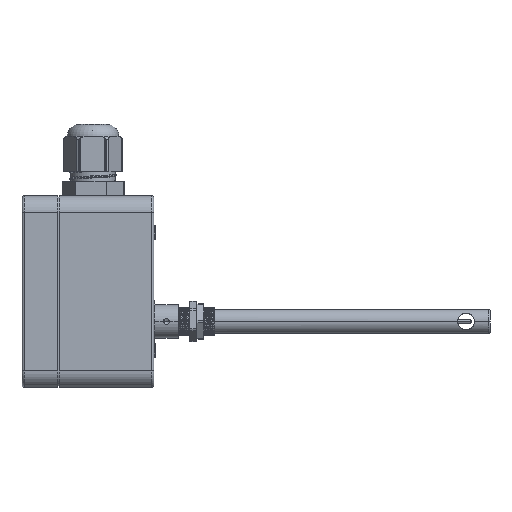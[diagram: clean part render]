
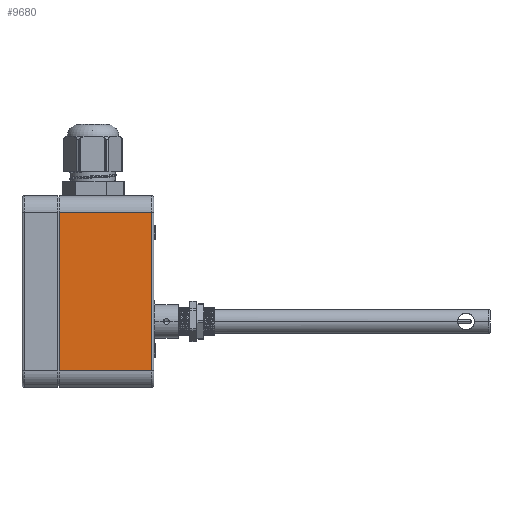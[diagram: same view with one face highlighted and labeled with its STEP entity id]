
A CAD part, left-side view. The second image highlights one B-rep face of the part: STEP entity #9680.
In plain terms, the highlighted planar face has unit normal (-1, 0, 0).
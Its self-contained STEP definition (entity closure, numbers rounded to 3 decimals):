
#101 = LINE ( 'NONE', #25675, #8970 ) ;
#603 = ORIENTED_EDGE ( 'NONE', *, *, #10212, .T. ) ;
#1168 = VERTEX_POINT ( 'NONE', #14395 ) ;
#1512 = CARTESIAN_POINT ( 'NONE',  ( -42.5, -40., -40. ) ) ;
#1620 = EDGE_LOOP ( 'NONE', ( #4440, #603, #23106, #13987 ) ) ;
#2509 = CARTESIAN_POINT ( 'NONE',  ( -42.5, -39., -40. ) ) ;
#2892 = LINE ( 'NONE', #22020, #26446 ) ;
#4440 = ORIENTED_EDGE ( 'NONE', *, *, #8292, .T. ) ;
#5016 = LINE ( 'NONE', #2509, #20562 ) ;
#5070 = EDGE_CURVE ( 'NONE', #13021, #26379, #20465, .T. ) ;
#6503 = DIRECTION ( 'NONE',  ( 0., -1., 0. ) ) ;
#7605 = CARTESIAN_POINT ( 'NONE',  ( -42.5, -0.6, -33. ) ) ;
#8292 = EDGE_CURVE ( 'NONE', #13021, #1168, #101, .T. ) ;
#8515 = CARTESIAN_POINT ( 'NONE',  ( -42.5, -0.6, 33. ) ) ;
#8970 = VECTOR ( 'NONE', #6503, 1000. ) ;
#9680 = ADVANCED_FACE ( 'NONE', ( #27376 ), #20493, .T. ) ;
#10041 = EDGE_CURVE ( 'NONE', #11730, #26379, #2892, .T. ) ;
#10212 = EDGE_CURVE ( 'NONE', #1168, #11730, #5016, .T. ) ;
#11730 = VERTEX_POINT ( 'NONE', #16600 ) ;
#12036 = VECTOR ( 'NONE', #22566, 1000. ) ;
#13021 = VERTEX_POINT ( 'NONE', #16803 ) ;
#13987 = ORIENTED_EDGE ( 'NONE', *, *, #5070, .F. ) ;
#14395 = CARTESIAN_POINT ( 'NONE',  ( -42.5, -39., -33. ) ) ;
#16557 = AXIS2_PLACEMENT_3D ( 'NONE', #1512, #20898, #18389 ) ;
#16600 = CARTESIAN_POINT ( 'NONE',  ( -42.5, -39., 33. ) ) ;
#16803 = CARTESIAN_POINT ( 'NONE',  ( -42.5, -0.6, -33. ) ) ;
#18389 = DIRECTION ( 'NONE',  ( 0., 1., 0. ) ) ;
#19923 = DIRECTION ( 'NONE',  ( 0., 1., 0. ) ) ;
#20465 = LINE ( 'NONE', #7605, #12036 ) ;
#20493 = PLANE ( 'NONE',  #16557 ) ;
#20562 = VECTOR ( 'NONE', #24016, 1000. ) ;
#20898 = DIRECTION ( 'NONE',  ( -1., 0., 0. ) ) ;
#22020 = CARTESIAN_POINT ( 'NONE',  ( -42.5, -40., 33. ) ) ;
#22566 = DIRECTION ( 'NONE',  ( 0., 0., 1. ) ) ;
#23106 = ORIENTED_EDGE ( 'NONE', *, *, #10041, .T. ) ;
#24016 = DIRECTION ( 'NONE',  ( 0., 0., 1. ) ) ;
#25675 = CARTESIAN_POINT ( 'NONE',  ( -42.5, -40., -33. ) ) ;
#26379 = VERTEX_POINT ( 'NONE', #8515 ) ;
#26446 = VECTOR ( 'NONE', #19923, 1000. ) ;
#27376 = FACE_OUTER_BOUND ( 'NONE', #1620, .T. ) ;
